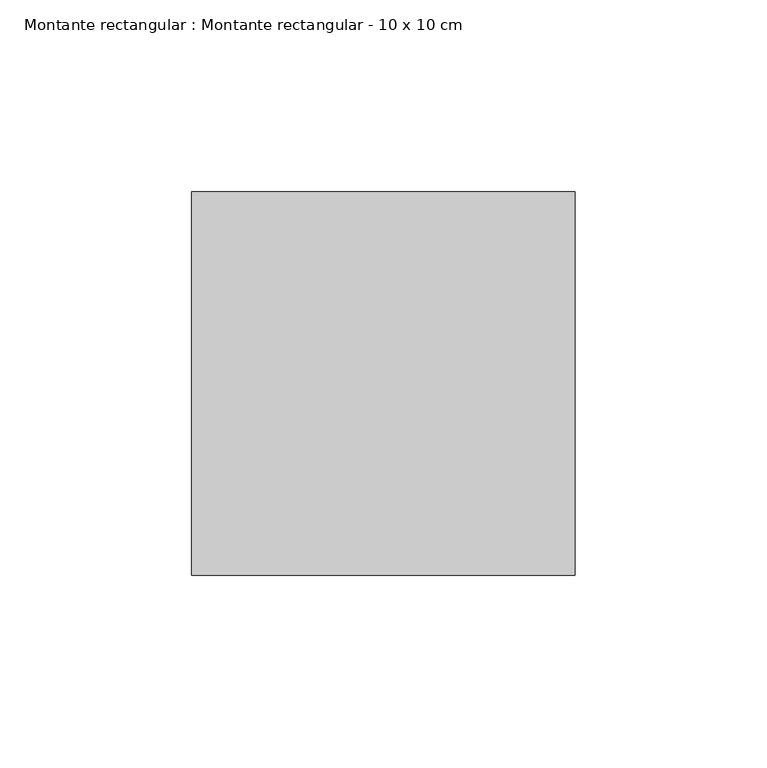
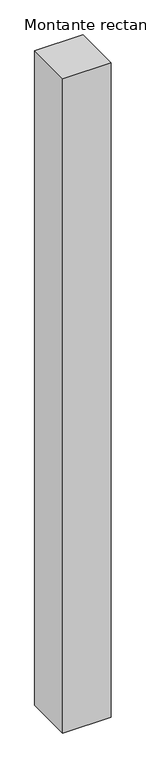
"""IFC4 building model written with IfcOpenShell, lengths in millimetres: member geometry, Montante rectangular : Montante rectangular - 10 x 10 cm."""

import ifcopenshell
import ifcopenshell.guid

model = None  # the IFC model being written
_history = None  # IfcOwnerHistory: only IFC2X3 demands one
_inside = {}  # id of a spatial element -> (the spatial element, [elements in it])
_under = {}  # id of a project, library or spatial element -> (it, [spatial elements below it])
_declared = {}  # id of a project -> (the project, [libraries it declares])
_typed = {}  # id of a type object -> (the type object, [elements of that type])
_made_of = {}  # id of a material, layer set ... -> (it, [elements and type objects made of it])


def new_model(schema):
    """Start an empty IFC model of exactly this schema.

    Asked for "IFC4X3", IfcOpenShell would pick the latest addendum, in which some entities
    have other attributes; the version numbers below select the first issue.
    IFC2X3 requires an IfcOwnerHistory on every rooted entity: one is made here for all.
    """
    global model, _history
    if schema == "IFC4X3":
        model = ifcopenshell.file(schema_version=(4, 3, 0, 0))
    else:
        model = ifcopenshell.file(schema=schema)
    _inside.clear()
    _under.clear()
    _declared.clear()
    _typed.clear()
    _made_of.clear()
    _history = None
    if model.schema == "IFC2X3":
        org = make("IfcOrganization", Name="unknown")
        user = make(
            "IfcPersonAndOrganization",
            ThePerson=make("IfcPerson", FamilyName="unknown"),
            TheOrganization=org,
        )
        app = make(
            "IfcApplication",
            ApplicationDeveloper=org,
            Version="unknown",
            ApplicationFullName="unknown",
            ApplicationIdentifier="unknown",
        )
        _history = make(
            "IfcOwnerHistory",
            OwningUser=user,
            OwningApplication=app,
            ChangeAction="ADDED",
            CreationDate=0,
        )
    return model


def make(cls, **values):
    """One entity of the class cls with the attributes given. An attribute that is None is left unset."""
    return model.create_entity(
        cls, **{name: value for name, value in values.items() if value is not None}
    )


def rooted(cls, **values):
    """An entity with a GlobalId (a new one), such as an element, a storey or a relation."""
    return make(cls, GlobalId=ifcopenshell.guid.new(), OwnerHistory=_history, **values)


def si_unit(unit_type, name, prefix=None):
    """IfcSIUnit, for example si_unit("LENGTHUNIT", "METRE", prefix="MILLI")."""
    return make("IfcSIUnit", UnitType=unit_type, Prefix=prefix, Name=name)


def assignment(units):
    """IfcUnitAssignment: the units of a project."""
    return None if units is None else make("IfcUnitAssignment", Units=units)


def point(xyz):
    """IfcCartesianPoint."""
    return None if xyz is None else make("IfcCartesianPoint", Coordinates=xyz)


def direction(xyz):
    """IfcDirection."""
    return None if xyz is None else make("IfcDirection", DirectionRatios=xyz)


def frame(location, z_axis=None, x_axis=None):
    """IfcAxis2Placement3D, a coordinate frame: its origin and axes. An axis left out is left unset."""
    return make(
        "IfcAxis2Placement3D",
        Location=point(location),
        Axis=direction(z_axis),
        RefDirection=direction(x_axis),
    )


def origin():
    """The frame at (0, 0, 0) with its axes left unset."""
    return frame((0.0, 0.0, 0.0))


def place(relative_to, where):
    """IfcLocalPlacement: puts the frame where relative to a parent placement (None: the world)."""
    return make(
        "IfcLocalPlacement", PlacementRelTo=relative_to, RelativePlacement=where
    )


def context(
    kind, dimensions, precision=None, world=None, true_north=None, identifier=None
):
    """IfcGeometricRepresentationContext, for example the 3D "Model" context."""
    return make(
        "IfcGeometricRepresentationContext",
        ContextIdentifier=identifier,
        ContextType=kind,
        CoordinateSpaceDimension=dimensions,
        Precision=precision,
        WorldCoordinateSystem=world,
        TrueNorth=true_north,
    )


def project(units=None, contexts=None):
    """IfcProject with its units and contexts."""
    return rooted(
        "IfcProject",
        Name="project",
        RepresentationContexts=contexts,
        UnitsInContext=assignment(units),
    )


def spatial(cls, under=None, at=None, **own):
    """A site, building, storey or space (cls), placed at a placement, below another one or the project."""
    s = rooted(cls, ObjectPlacement=at, **own)
    if under is not None:
        _under.setdefault(under.id(), (under, []))[1].append(s)
    return s


def polyline(points):
    """IfcPolyline through the points."""
    return make("IfcPolyline", Points=[point(p) for p in points])


def outline(outer, holes=None, kind="AREA"):
    """IfcArbitraryClosedProfileDef: a profile drawn as a closed curve; with holes, ...WithVoids."""
    if holes is None:
        return make("IfcArbitraryClosedProfileDef", ProfileType=kind, OuterCurve=outer)
    return make(
        "IfcArbitraryProfileDefWithVoids",
        ProfileType=kind,
        OuterCurve=outer,
        InnerCurves=holes,
    )


def extrude(swept, where, along, depth):
    """IfcExtrudedAreaSolid: the profile swept, set in the frame where, extruded along a direction by depth."""
    return make(
        "IfcExtrudedAreaSolid",
        SweptArea=swept,
        Position=where,
        ExtrudedDirection=direction(along),
        Depth=depth,
    )


def shape(context_of_items, identifier, shape_type, items):
    """IfcShapeRepresentation: the items that make up one representation, for example the "Body"."""
    return make(
        "IfcShapeRepresentation",
        ContextOfItems=context_of_items,
        RepresentationIdentifier=identifier,
        RepresentationType=shape_type,
        Items=items,
    )


def source(mapping_origin, context_of_items, identifier, shape_type, items):
    """IfcRepresentationMap: a shape defined once, which mapped items show again and again."""
    return make(
        "IfcRepresentationMap",
        MappingOrigin=mapping_origin,
        MappedRepresentation=shape(context_of_items, identifier, shape_type, items),
    )


def transform(
    local_origin,
    x_axis=None,
    y_axis=None,
    z_axis=None,
    scale=None,
    scale2=None,
    scale3=None,
    uniform=True,
):
    """IfcCartesianTransformationOperator3D, or its non-uniform kind. x_axis, y_axis, z_axis: its Axis1, 2, 3."""
    if uniform:
        return make(
            "IfcCartesianTransformationOperator3D",
            Axis1=direction(x_axis),
            Axis2=direction(y_axis),
            LocalOrigin=point(local_origin),
            Scale=scale,
            Axis3=direction(z_axis),
        )
    return make(
        "IfcCartesianTransformationOperator3DnonUniform",
        Axis1=direction(x_axis),
        Axis2=direction(y_axis),
        LocalOrigin=point(local_origin),
        Scale=scale,
        Axis3=direction(z_axis),
        Scale2=scale2,
        Scale3=scale3,
    )


def mapped(mapping_source, mapping_target):
    """IfcMappedItem: shows the shape of a source again, moved by a transform."""
    return make(
        "IfcMappedItem", MappingSource=mapping_source, MappingTarget=mapping_target
    )


def made_of(thing, what):
    """Note that an element or type object is made of a material, layer set ...; save() writes the relation."""
    if what is not None:
        _made_of.setdefault(what.id(), (what, []))[1].append(thing)
    return thing


def element(
    cls,
    number,
    at=None,
    inside=None,
    cuts=None,
    type_object=None,
    material=None,
    context=None,
    identifier="Body",
    shape_type=None,
    held_by="IfcProductDefinitionShape",
    body=None,
    shapes=None,
    **own,
):
    """One element of the class cls, such as IfcWall. Its Tag is "e" and its number.

    at: its placement. inside: the storey or other place that contains it. cuts: it is an
    opening in that element (IfcRelVoidsElement). A single representation is given by context,
    identifier, shape_type and body (its items); several are given by shapes. held_by: the class
    of the entity that holds the representations. save() writes the other relations.
    """
    e = rooted(cls, Tag="e%d" % number, ObjectPlacement=at, **own)
    if body is not None:
        shapes = [shape(context, identifier, shape_type, body)]
    if shapes is not None:
        e.Representation = make(held_by, Representations=shapes)
    if inside is not None:
        _inside.setdefault(inside.id(), (inside, []))[1].append(e)
    if cuts is not None:
        rooted(
            "IfcRelVoidsElement", RelatingBuildingElement=cuts, RelatedOpeningElement=e
        )
    if type_object is not None:
        _typed.setdefault(type_object.id(), (type_object, []))[1].append(e)
    return made_of(e, material)


def aggregate(whole, parts):
    """IfcRelAggregates: a whole, such as a stair, and the parts it consists of."""
    return rooted("IfcRelAggregates", RelatingObject=whole, RelatedObjects=parts)


def save(model, path):
    """Write the relations noted so far, then the file.

    IfcRelAggregates (storeys below a building ...), IfcRelContainedInSpatialStructure (elements
    in a storey), IfcRelDefinesByType, IfcRelAssociatesMaterial and IfcRelDeclares: one each for
    every whole, place, type object, material and project.
    """
    for whole, parts in _under.values():
        aggregate(whole, parts)
    for where, things in _inside.values():
        rooted(
            "IfcRelContainedInSpatialStructure",
            RelatedElements=things,
            RelatingStructure=where,
        )
    for kind, things in _typed.values():
        rooted("IfcRelDefinesByType", RelatedObjects=things, RelatingType=kind)
    for what, things in _made_of.values():
        rooted("IfcRelAssociatesMaterial", RelatedObjects=things, RelatingMaterial=what)
    for by, libraries in _declared.values():
        rooted("IfcRelDeclares", RelatingContext=by, RelatedDefinitions=libraries)
    model.write(path)


def montante_rectangular_montante_rectangular_10_x_10_cm_4af74fe2(model_context):
    return source(origin(), model_context, "Body", "SweptSolid", [
        extrude(outline(polyline([(0.0, 50.0), (0.0, -50.0), (-100.0, -50.0), (-100.0, 50.0), (0.0, 50.0)])), frame((0.0, 0.0, -1427.9575859), z_axis=(0.0, 0.0, 1.0), x_axis=(1.0, 0.0, 0.0)), (0.0, 0.0, 1.0), 1427.9575859),
    ])


if __name__ == "__main__":
    model = new_model("IFC4")
    model_context = context("Model", 3, world=origin())
    ifc_project = project(units=[si_unit("LENGTHUNIT", "METRE", prefix="MILLI")], contexts=[model_context])
    site = spatial("IfcSite", under=ifc_project)
    building = spatial("IfcBuilding", under=site)
    placement = place(None, origin())
    montante_rectangular_montante_rectangular_10_x_10_cm_shape = montante_rectangular_montante_rectangular_10_x_10_cm_4af74fe2(model_context)
    element("IfcMember", 1, ObjectType="Montante rectangular : Montante rectangular - 10 x 10 cm", at=placement, inside=building, context=model_context, shape_type="MappedRepresentation", body=[
        mapped(montante_rectangular_montante_rectangular_10_x_10_cm_shape, transform((0.0, 0.0, 0.0), x_axis=(1.0, 0.0, 0.0), y_axis=(0.0, 1.0, 0.0), z_axis=(0.0, 0.0, 1.0))),
    ])
    save(model, "model.ifc")
